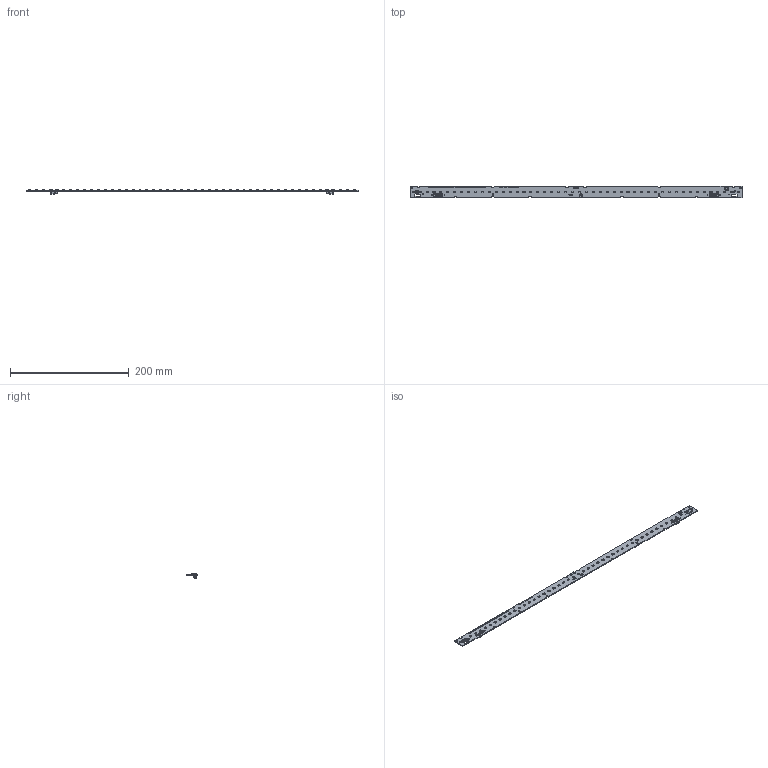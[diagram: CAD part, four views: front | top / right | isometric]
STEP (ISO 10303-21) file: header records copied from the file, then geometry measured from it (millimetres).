
FILE_DESCRIPTION(('Creo Elements/Direct Modeling STEP Export'),'2;1');
FILE_NAME('3D-Model_WU-M-738-BC.stp','2024-12-03T13:26:27',(''),(''),'PTC Creo Elements/Direct Modeling STEP processor for AP214 (Solid Model)','PTC Creo Elements/Direct Modeling 19.0E 27-Jun-2016 (C) Parametric Technology GmbH','');
FILE_SCHEMA(('AUTOMOTIVE_DESIGN { 1 0 10303 214 1 1 1 1 }'));
Length unit declared in the file: millimetre
Products named in the file (118): p1; Konektor.1; Konektor; ______STEP.ASM; _____-0_STEP.PRT; _____-0_STEP.PRT.1; _____-0_STEP.PRT.1.1; _____-0_STEP.PRT.1.12.1; Dioda02; Dioda01; Dioda; Baza-ploca; 3D-Adresa.37; 3D-Adresa.42; 3D-Adresa.41; 3D-Adresa.39; 3D-Adresa.36; 3D-Adresa.43; 3D-Adresa.38; 3D-Adresa.44; 3D-Adresa.40; 3D-Adresa.65; 3D-Adresa.64; 3D-Adresa.62; 3D-Adresa.61; 3D-Adresa.66; 3D-Adresa.57; 3D-Adresa.59; 3D-Adresa.67; 3D-Adresa.63; 3D-Adresa.60; 3D-Adresa.58; 3D-Adresa.1; 3D-Adresa; 3D-Adresa.15; 3D-Adresa.23; 3D-Adresa.17; 3D-Adresa.19; 3D-Adresa.20; 3D-Adresa.24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
Assembly tree (156 placements, depth 4):
  p1
  Konektor.1
    Konektor.1
  Konektor
    Konektor
  Dioda
    Dioda01
      Dioda02
        _____-0_STEP.PRT.1.12.1  x12
        _____-0_STEP.PRT.1.1  x12
        _____-0_STEP.PRT.1  x12
        _____-0_STEP.PRT  x12
        ______STEP.ASM
  Baza-ploca
Bounding box: 559 x 20 x 7.4 mm (x, y, z)
Volume: 17656.8 mm3; surface area: 26961.7 mm2
Topology: 106 solids, 346 shells, 9551 faces, 25663 edges, 16640 vertices
Faces by surface type: plane 7709, cylinder 1830, cone 8, bspline 4
Entity records: 133293 total; most frequent: CARTESIAN_POINT 18939, ORIENTED_EDGE 18006, DIRECTION 17245, EDGE_CURVE 8987, VECTOR 7341, LINE 7341, VERTEX_POINT 5948, AXIS2_PLACEMENT_3D 4952
